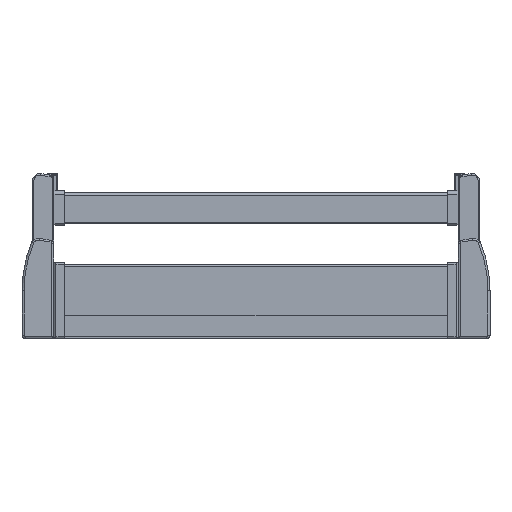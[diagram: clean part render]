
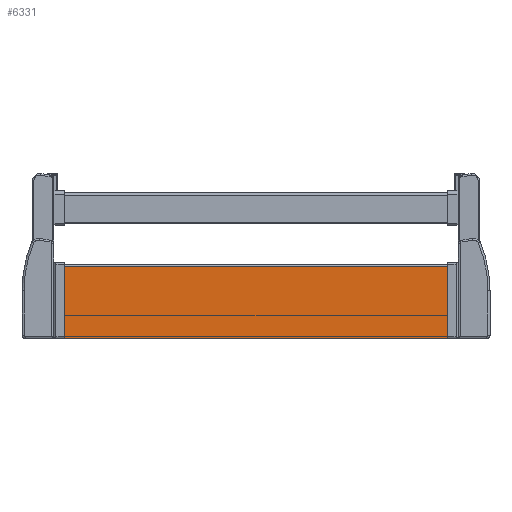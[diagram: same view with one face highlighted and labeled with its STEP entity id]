
A CAD part, top view. The second image highlights one B-rep face of the part: STEP entity #6331.
In plain terms, the highlighted planar face has unit normal (0, 0, 1).
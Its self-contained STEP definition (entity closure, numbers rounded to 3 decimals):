
#2874 = CARTESIAN_POINT ( 'NONE',  ( 185.8, -92.5, 1.4 ) ) ;
#2875 = DIRECTION ( 'NONE',  ( 0., 1., 0. ) ) ;
#2876 = VECTOR ( 'NONE', #2875, 1000. ) ;
#2877 = CARTESIAN_POINT ( 'NONE',  ( 185.8, -92.5, 1.4 ) ) ;
#2878 = LINE ( 'NONE', #2877, #2876 ) ;
#2879 = CARTESIAN_POINT ( 'NONE',  ( 185.8, -23., 1.4 ) ) ;
#3181 = CARTESIAN_POINT ( 'NONE',  ( -185.8, -92.5, 1.4 ) ) ;
#3570 = DIRECTION ( 'NONE',  ( -1., 0., 0. ) ) ;
#3571 = VECTOR ( 'NONE', #3570, 1000. ) ;
#3572 = CARTESIAN_POINT ( 'NONE',  ( 259.556, -23., 1.4 ) ) ;
#3573 = LINE ( 'NONE', #3572, #3571 ) ;
#3773 = DIRECTION ( 'NONE',  ( 0., 1., 0. ) ) ;
#3774 = VECTOR ( 'NONE', #3773, 1000. ) ;
#3775 = CARTESIAN_POINT ( 'NONE',  ( -185.8, -92.5, 1.4 ) ) ;
#3776 = LINE ( 'NONE', #3775, #3774 ) ;
#3777 = CARTESIAN_POINT ( 'NONE',  ( -185.8, -23., 1.4 ) ) ;
#3849 = DIRECTION ( 'NONE',  ( 0., 1., 0. ) ) ;
#3850 = DIRECTION ( 'NONE',  ( 0., 0., -1. ) ) ;
#3851 = CARTESIAN_POINT ( 'NONE',  ( 259.556, -92.5, 1.4 ) ) ;
#3852 = AXIS2_PLACEMENT_3D ( 'NONE', #3851, #3850, #3849 ) ;
#3853 = PLANE ( 'NONE',  #3852 ) ;
#3854 = FACE_OUTER_BOUND ( 'NONE', #6316, .T. ) ;
#4049 = DIRECTION ( 'NONE',  ( -1., 0., 0. ) ) ;
#4050 = VECTOR ( 'NONE', #4049, 1000. ) ;
#4051 = CARTESIAN_POINT ( 'NONE',  ( 259.556, -92.5, 1.4 ) ) ;
#4057 = LINE ( 'NONE', #4051, #4050 ) ;
#5803 = VERTEX_POINT ( 'NONE', #2879 ) ;
#5805 = EDGE_CURVE ( 'NONE', #5806, #5803, #2878, .T. ) ;
#5806 = VERTEX_POINT ( 'NONE', #2874 ) ;
#5972 = VERTEX_POINT ( 'NONE', #3181 ) ;
#6192 = ORIENTED_EDGE ( 'NONE', *, *, #6193, .T. ) ;
#6193 = EDGE_CURVE ( 'NONE', #5803, #6301, #3573, .T. ) ;
#6195 = ORIENTED_EDGE ( 'NONE', *, *, #6465, .F. ) ;
#6196 = ORIENTED_EDGE ( 'NONE', *, *, #5805, .T. ) ;
#6301 = VERTEX_POINT ( 'NONE', #3777 ) ;
#6302 = ORIENTED_EDGE ( 'NONE', *, *, #6304, .F. ) ;
#6304 = EDGE_CURVE ( 'NONE', #5972, #6301, #3776, .T. ) ;
#6316 = EDGE_LOOP ( 'NONE', ( #6195, #6196, #6192, #6302 ) ) ;
#6331 = ADVANCED_FACE ( 'NONE', ( #3854 ), #3853, .F. ) ;
#6465 = EDGE_CURVE ( 'NONE', #5806, #5972, #4057, .T. ) ;
